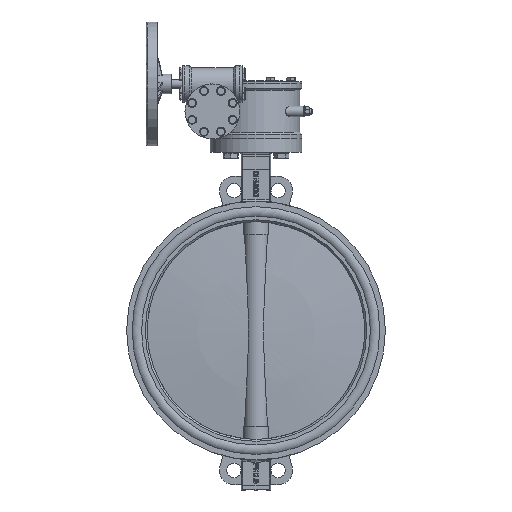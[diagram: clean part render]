
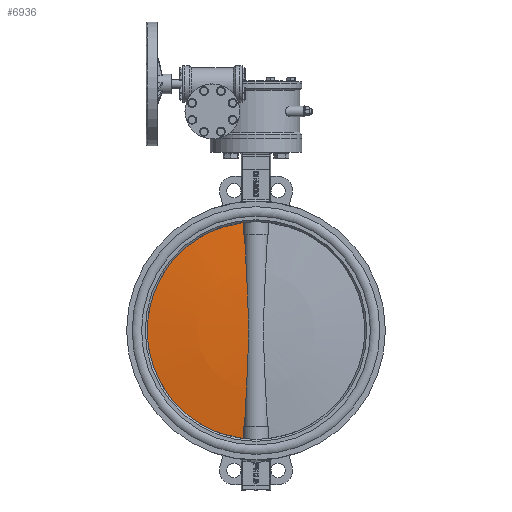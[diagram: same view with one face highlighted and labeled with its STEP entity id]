
A CAD part, left-side view. The second image highlights one B-rep face of the part: STEP entity #6936.
In plain terms, the highlighted spherical face has radius 2200.11 mm.
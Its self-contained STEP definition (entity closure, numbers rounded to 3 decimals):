
#6936=ADVANCED_FACE('',(#13818),#13820,.T.);
#13818=FACE_BOUND('',#13819,.T.);
#13819=EDGE_LOOP('',(#23047,#23048,#23049,#23050,#23051,#23052));
#13820=SPHERICAL_SURFACE('',#13821,2200.107);
#13821=AXIS2_PLACEMENT_3D('',#13822,#13823,#13824);
#13822=CARTESIAN_POINT('',(0.,-2177.107,0.));
#13823=DIRECTION('',(0.,-1.,0.));
#13824=DIRECTION('',(0.,0.,1.));
#23047=ORIENTED_EDGE('',*,*,#25630,.F.);
#23048=ORIENTED_EDGE('',*,*,#25642,.F.);
#23049=ORIENTED_EDGE('',*,*,#25643,.T.);
#23050=ORIENTED_EDGE('',*,*,#25644,.F.);
#23051=ORIENTED_EDGE('',*,*,#25613,.F.);
#23052=ORIENTED_EDGE('',*,*,#25641,.T.);
#25613=EDGE_CURVE('',#28137,#28138,#28139,.F.);
#25630=EDGE_CURVE('',#28170,#28155,#28172,.T.);
#25641=EDGE_CURVE('',#28137,#28155,#28187,.T.);
#25642=EDGE_CURVE('',#28188,#28170,#28189,.T.);
#25643=EDGE_CURVE('',#28188,#28190,#28191,.T.);
#25644=EDGE_CURVE('',#28138,#28190,#28192,.T.);
#28137=VERTEX_POINT('',#35780);
#28138=VERTEX_POINT('',#35781);
#28139=B_SPLINE_CURVE_WITH_KNOTS('',3,
(#35782,#35783,#35784,#35785,#35786,#35787,#35788,#35789,#35790,#35791,#35792),
.UNSPECIFIED.,.F.,.F.,
(4,1,1,1,1,1,1,1,4),
(0.,0.124,0.249,0.374,0.499,0.624,
0.749,0.874,1.),
.UNSPECIFIED.);
#28155=VERTEX_POINT('',#35920);
#28170=VERTEX_POINT('',#36044);
#28172=B_SPLINE_CURVE_WITH_KNOTS('',3,
(#36049,#36050,#36051,#36052,#36053,#36054,#36055,#36056,#36057,#36058,#36059),
.UNSPECIFIED.,.F.,.F.,
(4,1,1,1,1,1,1,1,4),
(0.,0.124,0.249,0.374,0.499,0.624,
0.749,0.874,1.),
.UNSPECIFIED.);
#28187=CIRCLE('',#36168,250.);
#28188=VERTEX_POINT('',#36172);
#28189=CIRCLE('',#36173,2189.043);
#28190=VERTEX_POINT('',#36177);
#28191=B_SPLINE_CURVE_WITH_KNOTS('',3,
(#36178,#36179,#36180,#36181,#36182,#36183,#36184,#36185,#36186,#36187,#36188,#36189,
#36190,#36191,#36192,#36193,#36194,#36195,#36196,#36197,#36198,#36199,#36200,#36201,
#36202,#36203,#36204,#36205,#36206,#36207,#36208,#36209,#36210,#36211,#36212,#36213),
.UNSPECIFIED.,.F.,.F.,
(4,1,1,1,1,1,1,1,1,1,1,1,1,1,1,1,1,1,1,1,1,1,1,1,1,1,1,1,1,1,1,1,1,4),
(0.,0.031,0.058,0.093,0.143,0.192,
0.231,0.262,0.291,0.318,0.338,
0.359,0.381,0.403,0.426,0.45,
0.475,0.5,0.5,0.526,0.553,
0.582,0.612,0.643,0.675,0.709,
0.743,0.777,0.813,0.849,0.886,
0.924,0.962,1.),
.UNSPECIFIED.);
#28192=CIRCLE('',#36214,2189.043);
#35780=CARTESIAN_POINT('',(28.865,8.75,248.328));
#35781=CARTESIAN_POINT('',(27.776,11.76,220.367));
#35782=CARTESIAN_POINT('',(27.776,11.76,220.367));
#35783=CARTESIAN_POINT('',(27.825,11.642,221.528));
#35784=CARTESIAN_POINT('',(27.924,11.405,223.85));
#35785=CARTESIAN_POINT('',(28.069,11.044,227.335));
#35786=CARTESIAN_POINT('',(28.21,10.677,230.824));
#35787=CARTESIAN_POINT('',(28.349,10.304,234.317));
#35788=CARTESIAN_POINT('',(28.484,9.925,237.815));
#35789=CARTESIAN_POINT('',(28.615,9.539,241.316));
#35790=CARTESIAN_POINT('',(28.743,9.148,244.821));
#35791=CARTESIAN_POINT('',(28.825,8.883,247.159));
#35792=CARTESIAN_POINT('',(28.865,8.75,248.328));
#35920=CARTESIAN_POINT('',(28.865,8.75,-248.328));
#36044=CARTESIAN_POINT('',(27.776,11.76,-220.367));
#36049=CARTESIAN_POINT('',(27.776,11.76,-220.367));
#36050=CARTESIAN_POINT('',(27.825,11.642,-221.528));
#36051=CARTESIAN_POINT('',(27.924,11.405,-223.85));
#36052=CARTESIAN_POINT('',(28.069,11.044,-227.335));
#36053=CARTESIAN_POINT('',(28.21,10.677,-230.824));
#36054=CARTESIAN_POINT('',(28.349,10.304,-234.317));
#36055=CARTESIAN_POINT('',(28.484,9.925,-237.815));
#36056=CARTESIAN_POINT('',(28.615,9.539,-241.316));
#36057=CARTESIAN_POINT('',(28.743,9.148,-244.821));
#36058=CARTESIAN_POINT('',(28.825,8.883,-247.159));
#36059=CARTESIAN_POINT('',(28.865,8.75,-248.328));
#36168=AXIS2_PLACEMENT_3D('',#36169,#36170,#36171);
#36169=CARTESIAN_POINT('',(0.,8.75,0.));
#36170=DIRECTION('',(0.,1.,0.));
#36171=DIRECTION('',(0.115,0.,0.993));
#36172=CARTESIAN_POINT('',(26.352,11.777,-220.367));
#36173=AXIS2_PLACEMENT_3D('',#36174,#36175,#36176);
#36174=CARTESIAN_POINT('',(0.,-2177.107,-220.367));
#36175=DIRECTION('',(0.,0.,-1.));
#36176=DIRECTION('',(0.012,1.,0.));
#36177=CARTESIAN_POINT('',(26.352,11.777,220.367));
#36178=CARTESIAN_POINT('',(26.352,11.777,-220.367));
#36179=CARTESIAN_POINT('',(26.149,12.23,-215.892));
#36180=CARTESIAN_POINT('',(25.753,13.057,-207.464));
#36181=CARTESIAN_POINT('',(25.074,14.321,-193.774));
#36182=CARTESIAN_POINT('',(24.223,15.732,-177.368));
#36183=CARTESIAN_POINT('',(23.16,17.264,-157.582));
#36184=CARTESIAN_POINT('',(22.071,18.623,-137.413));
#36185=CARTESIAN_POINT('',(21.155,19.647,-119.893));
#36186=CARTESIAN_POINT('',(20.436,20.39,-105.449));
#36187=CARTESIAN_POINT('',(19.839,20.97,-92.671));
#36188=CARTESIAN_POINT('',(19.353,21.417,-81.399));
#36189=CARTESIAN_POINT('',(18.955,21.769,-71.296));
#36190=CARTESIAN_POINT('',(18.621,22.055,-61.972));
#36191=CARTESIAN_POINT('',(18.32,22.306,-52.44));
#36192=CARTESIAN_POINT('',(18.054,22.521,-42.606));
#36193=CARTESIAN_POINT('',(17.833,22.696,-32.475));
#36194=CARTESIAN_POINT('',(17.663,22.828,-21.953));
#36195=CARTESIAN_POINT('',(17.556,22.911,-11.14));
#36196=CARTESIAN_POINT('',(17.531,22.93,-3.774));
#36197=CARTESIAN_POINT('',(17.53,22.93,3.786));
#36198=CARTESIAN_POINT('',(17.558,22.909,11.68));
#36199=CARTESIAN_POINT('',(17.684,22.812,23.787));
#36200=CARTESIAN_POINT('',(17.907,22.638,36.416));
#36201=CARTESIAN_POINT('',(18.232,22.378,49.619));
#36202=CARTESIAN_POINT('',(18.659,22.025,63.301));
#36203=CARTESIAN_POINT('',(19.19,21.565,77.558));
#36204=CARTESIAN_POINT('',(19.814,20.995,92.197));
#36205=CARTESIAN_POINT('',(20.52,20.308,107.219));
#36206=CARTESIAN_POINT('',(21.291,19.501,122.529));
#36207=CARTESIAN_POINT('',(22.117,18.561,138.227));
#36208=CARTESIAN_POINT('',(22.977,17.488,154.213));
#36209=CARTESIAN_POINT('',(23.854,16.275,170.49));
#36210=CARTESIAN_POINT('',(24.725,14.924,186.959));
#36211=CARTESIAN_POINT('',(25.569,13.43,203.619));
#36212=CARTESIAN_POINT('',(26.098,12.344,214.769));
#36213=CARTESIAN_POINT('',(26.352,11.777,220.367));
#36214=AXIS2_PLACEMENT_3D('',#36215,#36216,#36217);
#36215=CARTESIAN_POINT('',(0.,-2177.107,220.367));
#36216=DIRECTION('',(0.,0.,1.));
#36217=DIRECTION('',(0.013,1.,0.));
